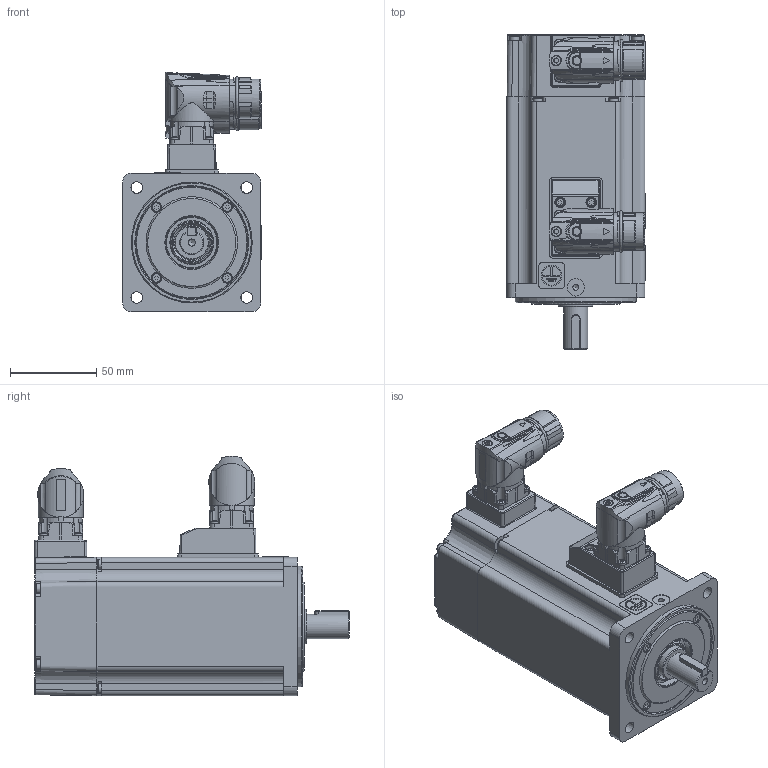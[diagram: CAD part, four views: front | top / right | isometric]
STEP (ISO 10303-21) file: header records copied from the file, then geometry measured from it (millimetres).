
FILE_DESCRIPTION( ( 'Unknown' ), '1' );
FILE_NAME( 'U:/05_Progetto TCE/010-TCE motor drawings/TCE80/vuoti/TCE80 3A XX 3 A2 1 C2.stp', 'Unknown', ( 'Unknown' ), ( 'Unknown' ), 'PSStep 17.0.49', 'Unknown', ' ' );
FILE_SCHEMA( ( 'AUTOMOTIVE_DESIGN { 1 0 10303 214 1 1 1 1 }' ) );
Length unit declared in the file: millimetre
Products named in the file (19): 003103001504
Bounding box: 80.3 x 182 x 138.5 mm (x, y, z)
Volume: 496577.7 mm3; surface area: 214300.7 mm2
Topology: 19 solids, 97 shells, 3032 faces, 7565 edges, 4872 vertices
Faces by surface type: plane 1444, cylinder 770, cone 283, bspline 218, torus 173, sphere 106, extrusion 38
Full cylindrical faces by diameter (mm): 1 x21, 1.2 x17, 1.4 x4, 1.5 x2, 2 x12, 2.013 x3, 2.2 x2, 2.459 x46, 2.5 x11, 2.65 x4, 2.7 x2, 2.8 x4, 3 x34, 3.2 x1, 3.242 x4, 3.4 x6, 3.5 x19, 4.134 x2, 4.4 x8, 4.5 x2, 4.7 x3, 5 x1, 5.5 x21, 5.8 x1, 5.9 x2, 6 x7, 6.8 x1, 8 x4, 10 x1, 11 x1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
Entity records: 121432 total; most frequent: CARTESIAN_POINT 33587, DIRECTION 13694, ORIENTED_EDGE 13148, EDGE_CURVE 6574, AXIS2_PLACEMENT_3D 5188, VERTEX_POINT 4623, EDGE_LOOP 3988, FACE_OUTER_BOUND 3476
